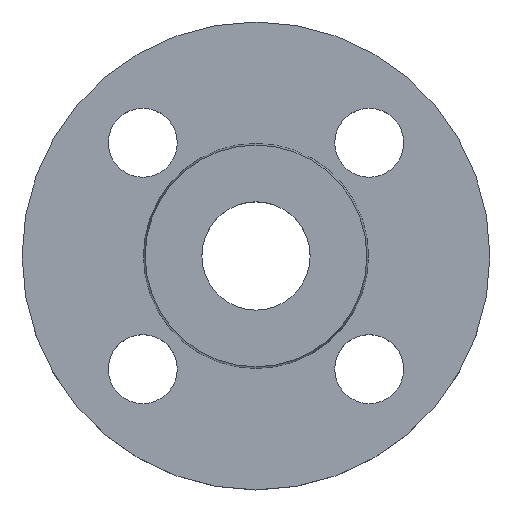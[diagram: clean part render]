
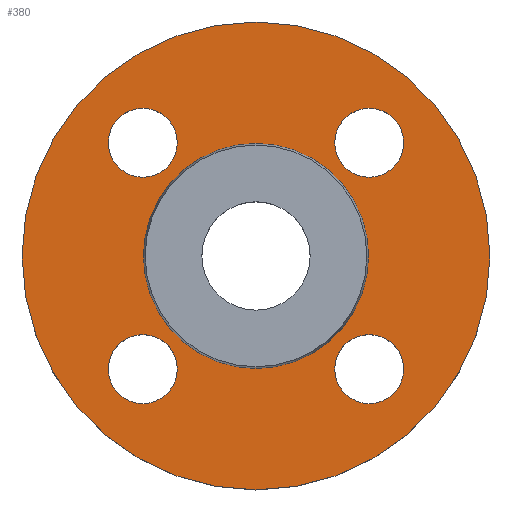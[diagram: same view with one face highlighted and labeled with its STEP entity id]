
A CAD part, top view. The second image highlights one B-rep face of the part: STEP entity #380.
In plain terms, the highlighted planar face has unit normal (0, 0, 1).
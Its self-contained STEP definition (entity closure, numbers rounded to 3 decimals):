
#1 = AXIS2_PLACEMENT_3D ( 'NONE', #328, #330, #334 ) ;
#3 = AXIS2_PLACEMENT_3D ( 'NONE', #661, #662, #663 ) ;
#5 = EDGE_CURVE ( 'NONE', #415, #586, #515, .T. ) ;
#6 = CIRCLE ( 'NONE', #7, 22.853 ) ;
#7 = AXIS2_PLACEMENT_3D ( 'NONE', #390, #392, #393 ) ;
#25 = EDGE_CURVE ( 'NONE', #424, #572, #355, .T. ) ;
#31 = CIRCLE ( 'NONE', #33, 7. ) ;
#33 = AXIS2_PLACEMENT_3D ( 'NONE', #127, #126, #124 ) ;
#34 = CIRCLE ( 'NONE', #36, 22.853 ) ;
#36 = AXIS2_PLACEMENT_3D ( 'NONE', #123, #122, #120 ) ;
#69 = AXIS2_PLACEMENT_3D ( 'NONE', #700, #701, #702 ) ;
#70 = EDGE_CURVE ( 'NONE', #586, #415, #475, .T. ) ;
#73 = AXIS2_PLACEMENT_3D ( 'NONE', #664, #665, #666 ) ;
#77 = EDGE_CURVE ( 'NONE', #345, #563, #141, .T. ) ;
#81 = CIRCLE ( 'NONE', #73, 47.5 ) ;
#88 = EDGE_CURVE ( 'NONE', #566, #587, #81, .T. ) ;
#100 = AXIS2_PLACEMENT_3D ( 'NONE', #294, #313, #314 ) ;
#120 = DIRECTION ( 'NONE',  ( -1., 0., 0. ) ) ;
#122 = DIRECTION ( 'NONE',  ( 0., 0., -1. ) ) ;
#123 = CARTESIAN_POINT ( 'NONE',  ( 0., 0., -2. ) ) ;
#124 = DIRECTION ( 'NONE',  ( 1., 0., 0. ) ) ;
#126 = DIRECTION ( 'NONE',  ( 0., 0., -1. ) ) ;
#127 = CARTESIAN_POINT ( 'NONE',  ( -22.981, -22.981, -2. ) ) ;
#141 = CIRCLE ( 'NONE', #3, 7. ) ;
#159 = CIRCLE ( 'NONE', #100, 47.5 ) ;
#171 = CARTESIAN_POINT ( 'NONE',  ( -29.981, 22.981, -2. ) ) ;
#175 = CARTESIAN_POINT ( 'NONE',  ( -47.5, 0., -2. ) ) ;
#176 = CARTESIAN_POINT ( 'NONE',  ( 15.981, 22.981, -2. ) ) ;
#179 = CIRCLE ( 'NONE', #1, 7. ) ;
#183 = AXIS2_PLACEMENT_3D ( 'NONE', #598, #599, #600 ) ;
#184 = CARTESIAN_POINT ( 'NONE',  ( -29.981, -22.981, -2. ) ) ;
#196 = CARTESIAN_POINT ( 'NONE',  ( 47.5, 0., -2. ) ) ;
#213 = CARTESIAN_POINT ( 'NONE',  ( -22.853, 0., -2. ) ) ;
#215 = CARTESIAN_POINT ( 'NONE',  ( 15.981, -22.981, -2. ) ) ;
#220 = CIRCLE ( 'NONE', #69, 7. ) ;
#222 = EDGE_CURVE ( 'NONE', #429, #590, #220, .T. ) ;
#234 = AXIS2_PLACEMENT_3D ( 'NONE', #376, #377, #378 ) ;
#237 = CIRCLE ( 'NONE', #234, 7. ) ;
#239 = CARTESIAN_POINT ( 'NONE',  ( 22.853, 0., -2. ) ) ;
#293 = CARTESIAN_POINT ( 'NONE',  ( -15.981, -22.981, -2. ) ) ;
#294 = CARTESIAN_POINT ( 'NONE',  ( 0., 0., -2. ) ) ;
#302 = AXIS2_PLACEMENT_3D ( 'NONE', #372, #373, #375 ) ;
#313 = DIRECTION ( 'NONE',  ( 0., 0., -1. ) ) ;
#314 = DIRECTION ( 'NONE',  ( -1., 0., 0. ) ) ;
#328 = CARTESIAN_POINT ( 'NONE',  ( 22.981, -22.981, -2. ) ) ;
#330 = DIRECTION ( 'NONE',  ( 0., 0., -1. ) ) ;
#334 = DIRECTION ( 'NONE',  ( 1., 0., 0. ) ) ;
#339 = FACE_BOUND ( 'NONE', #473, .T. ) ;
#345 = VERTEX_POINT ( 'NONE', #293 ) ;
#348 = EDGE_CURVE ( 'NONE', #587, #566, #159, .T. ) ;
#353 = EDGE_LOOP ( 'NONE', ( #583, #593 ) ) ;
#355 = CIRCLE ( 'NONE', #183, 7. ) ;
#357 = EDGE_LOOP ( 'NONE', ( #494, #495 ) ) ;
#361 = FACE_BOUND ( 'NONE', #492, .T. ) ;
#365 = FACE_BOUND ( 'NONE', #357, .T. ) ;
#366 = FACE_BOUND ( 'NONE', #353, .T. ) ;
#368 = FACE_BOUND ( 'NONE', #564, .T. ) ;
#369 = FACE_OUTER_BOUND ( 'NONE', #589, .T. ) ;
#370 = PLANE ( 'NONE',  #302 ) ;
#371 = EDGE_CURVE ( 'NONE', #590, #429, #179, .T. ) ;
#372 = CARTESIAN_POINT ( 'NONE',  ( 22.853, 0., -2. ) ) ;
#373 = DIRECTION ( 'NONE',  ( 0., 0., 1. ) ) ;
#375 = DIRECTION ( 'NONE',  ( 1., 0., 0. ) ) ;
#376 = CARTESIAN_POINT ( 'NONE',  ( -22.981, 22.981, -2. ) ) ;
#377 = DIRECTION ( 'NONE',  ( 0., 0., -1. ) ) ;
#378 = DIRECTION ( 'NONE',  ( 1., 0., 0. ) ) ;
#380 = ADVANCED_FACE ( 'NONE', ( #339, #361, #365, #366, #368, #369 ), #370, .T. ) ;
#383 = CARTESIAN_POINT ( 'NONE',  ( 29.981, 22.981, -2. ) ) ;
#389 = CARTESIAN_POINT ( 'NONE',  ( -15.981, 22.981, -2. ) ) ;
#390 = CARTESIAN_POINT ( 'NONE',  ( 0., 0., -2. ) ) ;
#392 = DIRECTION ( 'NONE',  ( 0., 0., -1. ) ) ;
#393 = DIRECTION ( 'NONE',  ( -1., 0., 0. ) ) ;
#396 = CARTESIAN_POINT ( 'NONE',  ( 29.981, -22.981, -2. ) ) ;
#400 = EDGE_CURVE ( 'NONE', #572, #424, #237, .T. ) ;
#415 = VERTEX_POINT ( 'NONE', #383 ) ;
#424 = VERTEX_POINT ( 'NONE', #389 ) ;
#425 = EDGE_CURVE ( 'NONE', #582, #578, #6, .T. ) ;
#429 = VERTEX_POINT ( 'NONE', #396 ) ;
#473 = EDGE_LOOP ( 'NONE', ( #483, #484 ) ) ;
#475 = CIRCLE ( 'NONE', #490, 7. ) ;
#483 = ORIENTED_EDGE ( 'NONE', *, *, #222, .T. ) ;
#484 = ORIENTED_EDGE ( 'NONE', *, *, #371, .T. ) ;
#486 = ORIENTED_EDGE ( 'NONE', *, *, #77, .T. ) ;
#487 = ORIENTED_EDGE ( 'NONE', *, *, #678, .T. ) ;
#490 = AXIS2_PLACEMENT_3D ( 'NONE', #658, #659, #660 ) ;
#492 = EDGE_LOOP ( 'NONE', ( #486, #487 ) ) ;
#494 = ORIENTED_EDGE ( 'NONE', *, *, #25, .T. ) ;
#495 = ORIENTED_EDGE ( 'NONE', *, *, #400, .T. ) ;
#497 = ORIENTED_EDGE ( 'NONE', *, *, #697, .T. ) ;
#498 = ORIENTED_EDGE ( 'NONE', *, *, #88, .F. ) ;
#500 = ORIENTED_EDGE ( 'NONE', *, *, #348, .F. ) ;
#506 = AXIS2_PLACEMENT_3D ( 'NONE', #595, #596, #597 ) ;
#515 = CIRCLE ( 'NONE', #506, 7. ) ;
#563 = VERTEX_POINT ( 'NONE', #184 ) ;
#564 = EDGE_LOOP ( 'NONE', ( #592, #497 ) ) ;
#566 = VERTEX_POINT ( 'NONE', #196 ) ;
#572 = VERTEX_POINT ( 'NONE', #171 ) ;
#578 = VERTEX_POINT ( 'NONE', #239 ) ;
#582 = VERTEX_POINT ( 'NONE', #213 ) ;
#583 = ORIENTED_EDGE ( 'NONE', *, *, #5, .T. ) ;
#586 = VERTEX_POINT ( 'NONE', #176 ) ;
#587 = VERTEX_POINT ( 'NONE', #175 ) ;
#589 = EDGE_LOOP ( 'NONE', ( #498, #500 ) ) ;
#590 = VERTEX_POINT ( 'NONE', #215 ) ;
#592 = ORIENTED_EDGE ( 'NONE', *, *, #425, .T. ) ;
#593 = ORIENTED_EDGE ( 'NONE', *, *, #70, .T. ) ;
#595 = CARTESIAN_POINT ( 'NONE',  ( 22.981, 22.981, -2. ) ) ;
#596 = DIRECTION ( 'NONE',  ( 0., 0., -1. ) ) ;
#597 = DIRECTION ( 'NONE',  ( 1., 0., 0. ) ) ;
#598 = CARTESIAN_POINT ( 'NONE',  ( -22.981, 22.981, -2. ) ) ;
#599 = DIRECTION ( 'NONE',  ( 0., 0., -1. ) ) ;
#600 = DIRECTION ( 'NONE',  ( 1., 0., 0. ) ) ;
#658 = CARTESIAN_POINT ( 'NONE',  ( 22.981, 22.981, -2. ) ) ;
#659 = DIRECTION ( 'NONE',  ( 0., 0., -1. ) ) ;
#660 = DIRECTION ( 'NONE',  ( 1., 0., 0. ) ) ;
#661 = CARTESIAN_POINT ( 'NONE',  ( -22.981, -22.981, -2. ) ) ;
#662 = DIRECTION ( 'NONE',  ( 0., 0., -1. ) ) ;
#663 = DIRECTION ( 'NONE',  ( 1., 0., 0. ) ) ;
#664 = CARTESIAN_POINT ( 'NONE',  ( 0., 0., -2. ) ) ;
#665 = DIRECTION ( 'NONE',  ( 0., 0., -1. ) ) ;
#666 = DIRECTION ( 'NONE',  ( -1., 0., 0. ) ) ;
#678 = EDGE_CURVE ( 'NONE', #563, #345, #31, .T. ) ;
#697 = EDGE_CURVE ( 'NONE', #578, #582, #34, .T. ) ;
#700 = CARTESIAN_POINT ( 'NONE',  ( 22.981, -22.981, -2. ) ) ;
#701 = DIRECTION ( 'NONE',  ( 0., 0., -1. ) ) ;
#702 = DIRECTION ( 'NONE',  ( 1., 0., 0. ) ) ;
